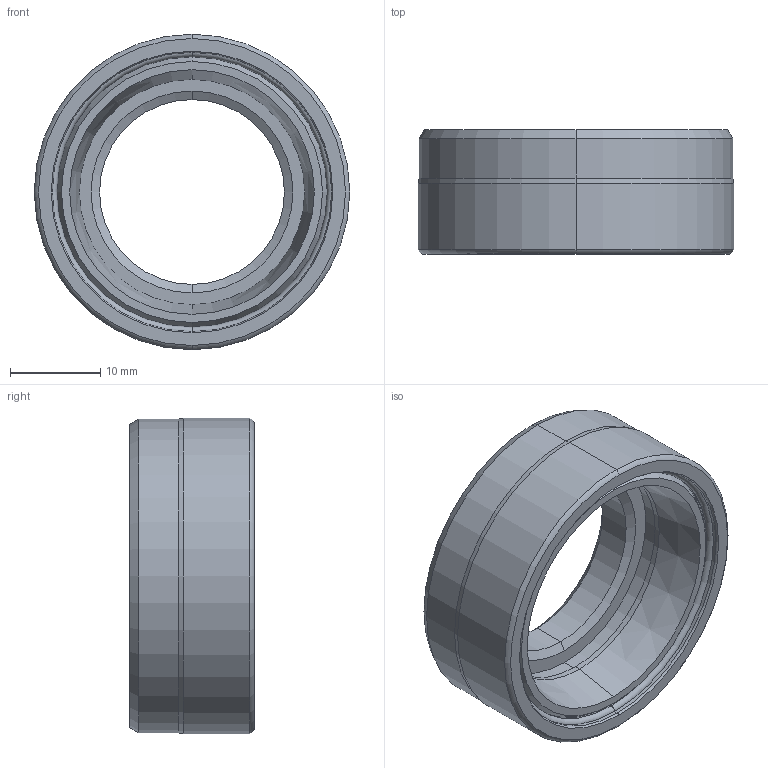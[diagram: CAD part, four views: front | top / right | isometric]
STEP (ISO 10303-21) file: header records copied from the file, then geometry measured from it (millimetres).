
FILE_DESCRIPTION (( 'STEP AP203' ), '1' );
FILE_NAME ('VXF0160-B.STEP', '2014-11-25T05:01:29', ( '0393' ), ( 'Hewlett-Packard Company' ), 'SwSTEP 2.0', 'SolidWorks 2013', '' );
FILE_SCHEMA (( 'CONFIG_CONTROL_DESIGN' ));
Length unit declared in the file: millimetre
Products named in the file (1): VXF0160-B
Bounding box: 35 x 13.8 x 35 mm (x, y, z)
Volume: 6665.7 mm3; surface area: 3792.4 mm2
Topology: 1 solids, 1 shells, 38 faces, 76 edges, 44 vertices
Faces by surface type: cone 12, cylinder 12, torus 8, plane 6
Entity records: 1073 total; most frequent: DIRECTION 206, CARTESIAN_POINT 159, ORIENTED_EDGE 152, AXIS2_PLACEMENT_3D 91, EDGE_CURVE 76, CIRCLE 52, EDGE_LOOP 44, VERTEX_POINT 44
